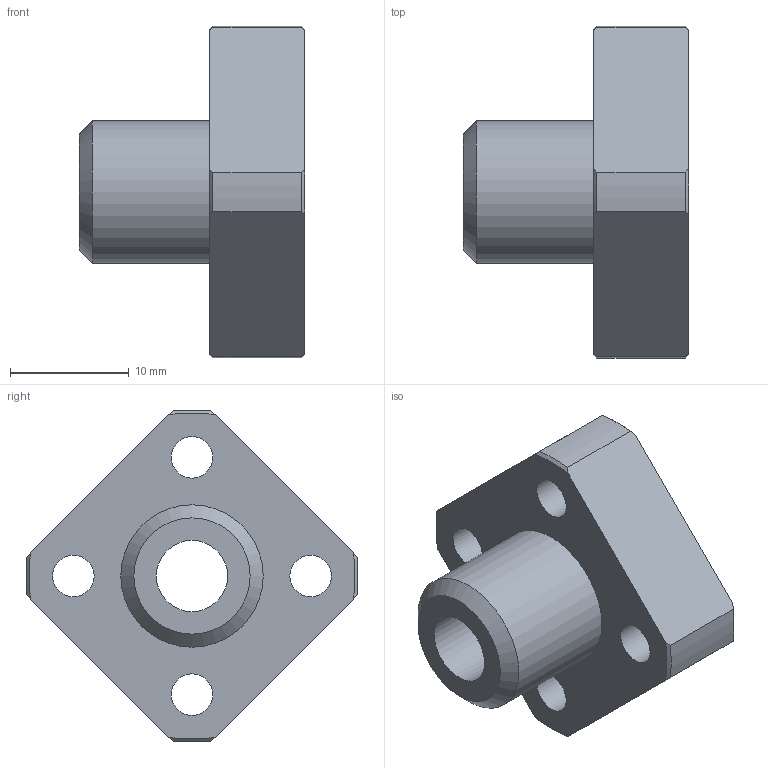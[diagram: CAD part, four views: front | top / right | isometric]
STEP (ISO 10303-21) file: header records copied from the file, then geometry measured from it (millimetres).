
FILE_DESCRIPTION(('STEP AP203'),'1');
FILE_NAME('//192.168.1.1/share/s-4 技術開発/s-4-4_CAD/s-4-4-3_見直し済み/PBC LINEAR修正済み/3D途中/SFPJ/SFPJ/SFPJ06.step','2022-03-24T05:54:59',(' '),(' '),'Spatial InterOp 3D',' ',' ');
FILE_SCHEMA(('CONFIG_CONTROL_DESIGN'));
Length unit declared in the file: millimetre
Products named in the file (1): 1
Bounding box: 19 x 27.98 x 27.98 mm (x, y, z)
Volume: 3936.7 mm3; surface area: 2666.4 mm2
Topology: 1 solids, 1 shells, 34 faces, 84 edges, 57 vertices
Faces by surface type: cylinder 14, plane 11, cone 9
Full cylindrical faces by diameter (mm): 3.5 x4, 6 x5, 12 x1
Entity records: 1018 total; most frequent: CARTESIAN_POINT 205, DIRECTION 160, ORIENTED_EDGE 138, AXIS2_PLACEMENT_3D 72, EDGE_CURVE 69, EDGE_LOOP 60, VERTEX_POINT 53, FACE_OUTER_BOUND 44
